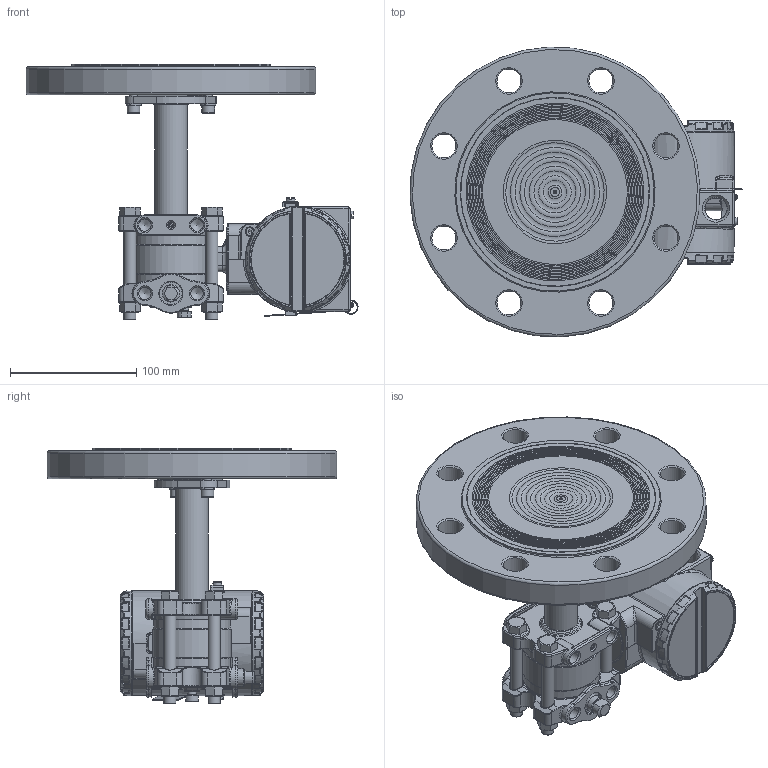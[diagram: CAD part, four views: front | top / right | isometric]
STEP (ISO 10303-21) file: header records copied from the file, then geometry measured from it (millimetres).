
FILE_DESCRIPTION(/* description */ (''),/* implementation_level */ '2;1');
FILE_NAME(/* name */ 'F:\Area\Desenvolvimento_2\Projects\Sensor\projetos\LD30X\montagens 3d - clientes\SELO NIVEL\LD30XL 4-150 RF ref 1-4NPT purga acima.stp',/* time_stamp */ '2023-02-15T08:19:42-03:00',/* author */ ('inventor02'),/* organization */ (''),/* preprocessor_version */ 'ST-DEVELOPER v17',/* originating_system */ 'Autodesk Inventor 2019',/* authorisation */ '');
FILE_SCHEMA (('CONFIG_CONTROL_DESIGN'));
Products named in the file (38): LD30XL 4-150 RF ref 1-4NPT purga acima; 204-0301-L-4 150 RF purga acima; nivel fx3 com baixa diferencial 1-4NPT purga acima; involucro fx0-3 apos a usinagem final; flange diferencial std purga; 101-C-7484-01 flange selo nivel VR; 201-A-0504-tubo união teste 1; bujao 1-4NPT; Sangria; Porca 3-8 x 16 UNC; Paraf. 3-8 x 16 UNC; adaptação tubo x flanges 1-1-2 a 4pol; 101-B-0161-anel cortado do tubo - teste1; 101-B-0162-flange fixação tubo; ANSI B18.3.1M - M6x1 x 16; DIN 127 - A 6; 101-C-0112-11; carcaça vazia com tampas e plaqueta; carcaça LD inox sem letras; Subconjunto plaqueta 300; Plaqueta transmissor; Parafuso da Plaqueta; Rebite da Plaqueta; 096-A-0169-03; 101-A-0502-01; Chapa aterramento externo; ISO 1207 - M4 x 8; DIN 915 - M6 x 10; ANSI B18.3.1M - M4x0,7 x 8; Subconjunto tampa com visor aluminio; tampa pintada; VIDRO DO VISOR; oring 41x1 vidro tampa; Trava do vidro da tampa com visor; trava do vidro VH256; Subconjunto tampa sem visor-aluminio; tampa cega 300 pintada p0; 00034775-0
Assembly tree (48 placements, depth 4):
  LD30XL 4-150 RF ref 1-4NPT purga acima
    204-0301-L-4 150 RF purga acima
      nivel fx3 com baixa diferencial 1-4NPT purga acima
        involucro fx0-3 apos a usinagem final
        flange diferencial std purga
        101-C-7484-01 flange selo nivel VR
        201-A-0504-tubo união teste 1
        DIN 915 - M6 x 10
        bujao 1-4NPT
        Sangria
        Porca 3-8 x 16 UNC  x4
        Paraf. 3-8 x 16 UNC  x4
      adaptação tubo x flanges 1-1-2 a 4pol
        101-B-0161-anel cortado do tubo - teste1
        101-B-0162-flange fixação tubo
        ANSI B18.3.1M - M6x1 x 16  x2
        DIN 127 - A 6  x2
      101-C-0112-11
    carcaça vazia com tampas e plaqueta
      carcaça LD inox sem letras
      Subconjunto plaqueta 300
        Plaqueta transmissor
        Parafuso da Plaqueta
        Rebite da Plaqueta
        096-A-0169-03
        101-A-0502-01
      Chapa aterramento externo
      ISO 1207 - M4 x 8
      DIN 915 - M6 x 10
      ANSI B18.3.1M - M4x0,7 x 8  x2
      Subconjunto tampa com visor aluminio
        tampa pintada
        VIDRO DO VISOR
        oring 41x1 vidro tampa
        Trava do vidro da tampa com visor
        trava do vidro VH256
        00034775-0
      Subconjunto tampa sem visor-aluminio
        tampa cega 300 pintada p0
        00034775-0
Bounding box: 263.17 x 229.78 x 202.6 mm (x, y, z)
Volume: 1508195.7 mm3; surface area: 361844 mm2
Topology: 41 solids, 41 shells, 2694 faces, 6460 edges, 3808 vertices
Faces by surface type: bspline 666, cylinder 652, plane 546, torus 454, cone 250, sphere 126
Full cylindrical faces by diameter (mm): 2 x4, 2.1 x2, 2.459 x5, 2.5 x1, 2.642 x1, 2.7 x1, 2.8 x1, 3 x4, 3.242 x4, 3.5 x5, 3.571 x1, 4 x5, 4.3 x1, 4.4 x1, 4.917 x4, 5 x1, 5.5 x3, 6 x6, 6.647 x1, 7 x7, 7.087 x2, 7.6 x2, 7.798 x4, 8 x1, 8.7 x2, 9.525 x4, 9.728 x6, 10 x2, 10.5 x8, 10.719 x2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
Entity records: 93154 total; most frequent: CARTESIAN_POINT 34405, ORIENTED_EDGE 12100, DIRECTION 12077, EDGE_CURVE 6050, AXIS2_PLACEMENT_3D 5318, VERTEX_POINT 3614, CIRCLE 3140, EDGE_LOOP 2728
